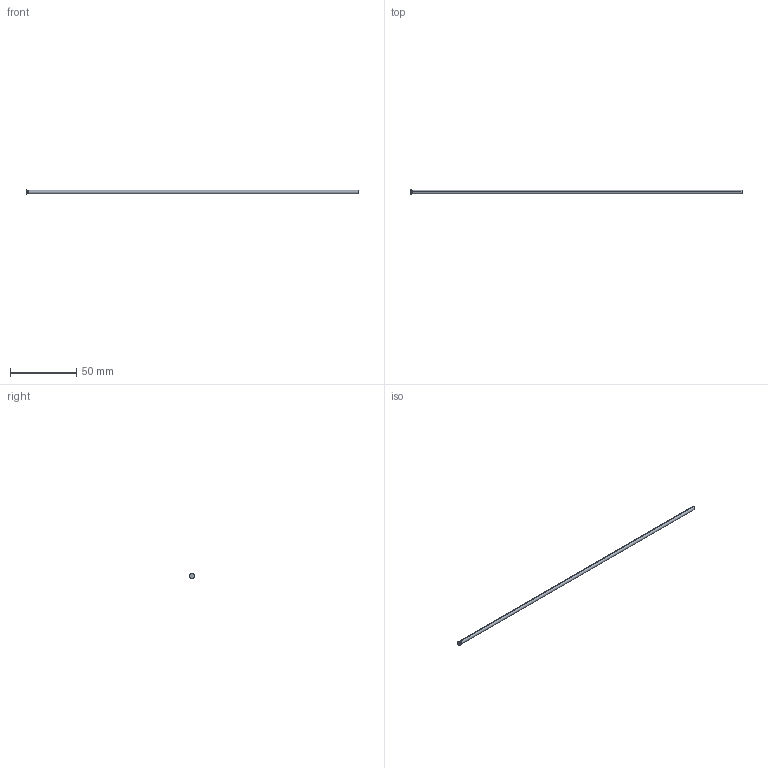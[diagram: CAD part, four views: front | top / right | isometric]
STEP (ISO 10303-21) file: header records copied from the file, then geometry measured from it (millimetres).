
FILE_DESCRIPTION (( 'STEP AP214' ), '1' );
FILE_NAME ('D-2,5x250.STEP', '2020-06-08T10:07:18', ( 'August' ), ( '' ), 'SwSTEP 2.0', 'SolidWorks 2018', '' );
FILE_SCHEMA (( 'AUTOMOTIVE_DESIGN' ));
Length unit declared in the file: millimetre
Products named in the file (1): D-2,5x250
Bounding box: 250 x 3.5 x 3.5 mm (x, y, z)
Volume: 1231.5 mm3; surface area: 1982.2 mm2
Topology: 1 solids, 1 shells, 10 faces, 18 edges, 10 vertices
Faces by surface type: cylinder 4, torus 2, cone 2, plane 2
Entity records: 280 total; most frequent: DIRECTION 52, CARTESIAN_POINT 39, ORIENTED_EDGE 36, AXIS2_PLACEMENT_3D 23, EDGE_CURVE 18, CIRCLE 12, EDGE_LOOP 10, ADVANCED_FACE 10
